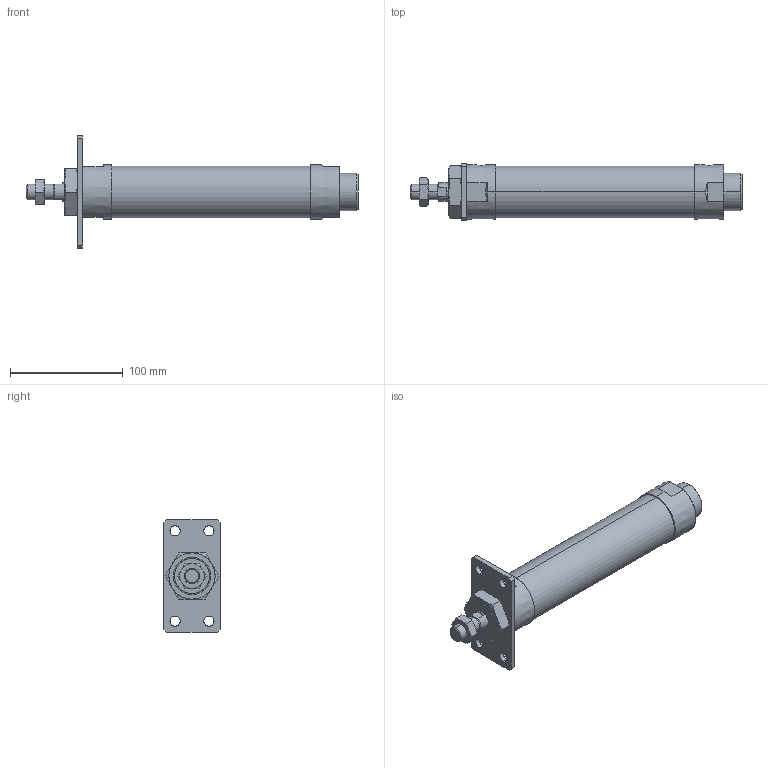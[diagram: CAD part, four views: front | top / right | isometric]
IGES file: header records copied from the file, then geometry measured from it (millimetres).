
Start section: SolidWorks IGES file using analytic representation for surfaces
Global section: file name: C:\Users\Toshiba\Desktop\J#2-40-125-A.IGS; native system: SolidWorks 2014; preprocessor: SolidWorks 2014; author: Toshiba; date: 160308.155915; units: millimetre
Bounding box: 294 x 50 x 100 mm (x, y, z)
Surface area: 58554.9 mm2 (no closed solid volume)
Topology: 0 solids, 0 shells, 114 faces, 2318 edges, 2314 vertices
Faces by surface type: bspline 67, revolution 47
